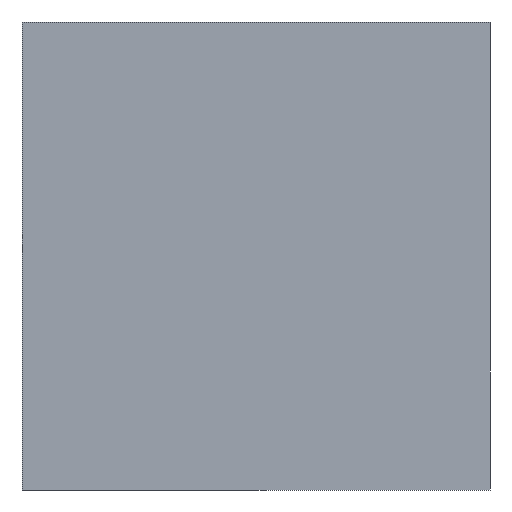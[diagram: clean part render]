
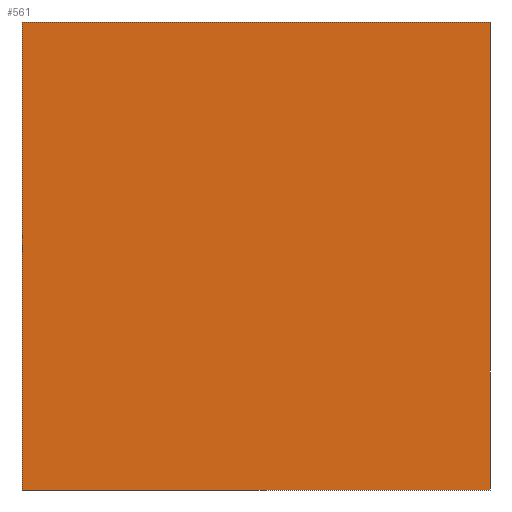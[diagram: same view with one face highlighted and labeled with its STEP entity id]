
A CAD part, left-side view. The second image highlights one B-rep face of the part: STEP entity #561.
In plain terms, the highlighted planar face has unit normal (-1, 0, 0).
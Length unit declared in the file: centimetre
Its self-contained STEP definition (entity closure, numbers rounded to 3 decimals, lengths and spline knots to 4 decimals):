
#6 = DIRECTION ( 'NONE',  ( 0., 0., -1. ) ) ;
#8 = EDGE_CURVE ( 'NONE', #506, #265, #132, .T. ) ;
#25 = DIRECTION ( 'NONE',  ( 0., -1., 0. ) ) ;
#93 = PLANE ( 'NONE',  #396 ) ;
#104 = CARTESIAN_POINT ( 'NONE',  ( 0., 1000., 1000. ) ) ;
#105 = VERTEX_POINT ( 'NONE', #142 ) ;
#116 = VECTOR ( 'NONE', #437, 100. ) ;
#132 = LINE ( 'NONE', #600, #504 ) ;
#135 = CARTESIAN_POINT ( 'NONE',  ( 0., 1000., 0. ) ) ;
#142 = CARTESIAN_POINT ( 'NONE',  ( 0., 0., 1000. ) ) ;
#168 = LINE ( 'NONE', #591, #330 ) ;
#175 = DIRECTION ( 'NONE',  ( 0., 0., -1. ) ) ;
#248 = ORIENTED_EDGE ( 'NONE', *, *, #409, .F. ) ;
#256 = EDGE_CURVE ( 'NONE', #265, #451, #612, .T. ) ;
#263 = ORIENTED_EDGE ( 'NONE', *, *, #275, .F. ) ;
#265 = VERTEX_POINT ( 'NONE', #135 ) ;
#266 = CARTESIAN_POINT ( 'NONE',  ( 0., 1000., 1000. ) ) ;
#275 = EDGE_CURVE ( 'NONE', #506, #105, #488, .T. ) ;
#305 = VECTOR ( 'NONE', #25, 100. ) ;
#330 = VECTOR ( 'NONE', #6, 100. ) ;
#365 = DIRECTION ( 'NONE',  ( 0., 0., -1. ) ) ;
#396 = AXIS2_PLACEMENT_3D ( 'NONE', #567, #529, #175 ) ;
#409 = EDGE_CURVE ( 'NONE', #105, #451, #168, .T. ) ;
#437 = DIRECTION ( 'NONE',  ( 0., -1., 0. ) ) ;
#446 = ORIENTED_EDGE ( 'NONE', *, *, #8, .T. ) ;
#451 = VERTEX_POINT ( 'NONE', #455 ) ;
#455 = CARTESIAN_POINT ( 'NONE',  ( 0., 0., 0. ) ) ;
#478 = ORIENTED_EDGE ( 'NONE', *, *, #256, .T. ) ;
#488 = LINE ( 'NONE', #104, #116 ) ;
#496 = EDGE_LOOP ( 'NONE', ( #478, #248, #263, #446 ) ) ;
#504 = VECTOR ( 'NONE', #365, 100. ) ;
#506 = VERTEX_POINT ( 'NONE', #266 ) ;
#529 = DIRECTION ( 'NONE',  ( 1., 0., 0. ) ) ;
#561 = ADVANCED_FACE ( 'NONE', ( #604 ), #93, .F. ) ;
#565 = CARTESIAN_POINT ( 'NONE',  ( 0., 1000., 0. ) ) ;
#567 = CARTESIAN_POINT ( 'NONE',  ( 0., 1000., 1000. ) ) ;
#591 = CARTESIAN_POINT ( 'NONE',  ( 0., 0., 1000. ) ) ;
#600 = CARTESIAN_POINT ( 'NONE',  ( 0., 1000., 1000. ) ) ;
#604 = FACE_OUTER_BOUND ( 'NONE', #496, .T. ) ;
#612 = LINE ( 'NONE', #565, #305 ) ;
